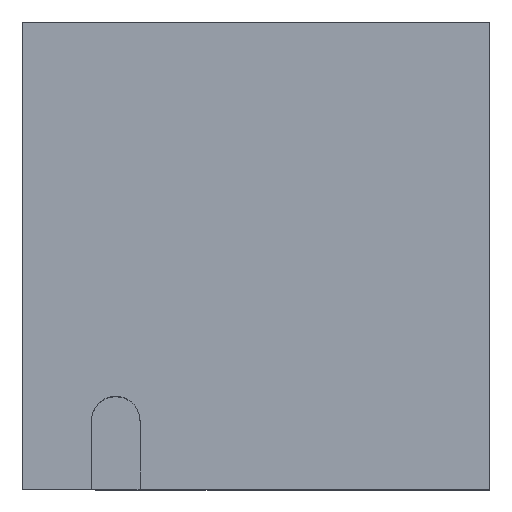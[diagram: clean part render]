
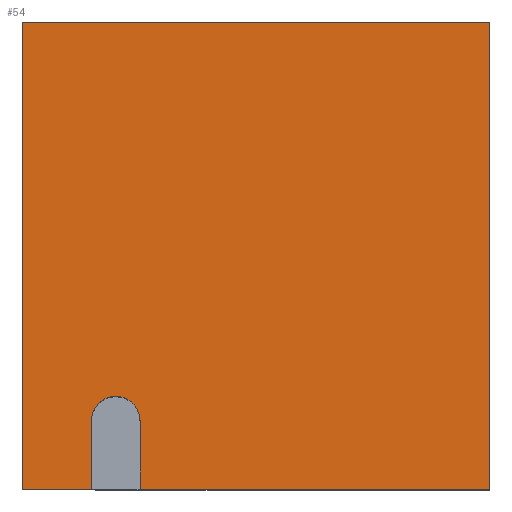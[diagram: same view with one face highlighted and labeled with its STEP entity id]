
A CAD part, top view. The second image highlights one B-rep face of the part: STEP entity #54.
In plain terms, the highlighted planar face has unit normal (0, 0, 1).
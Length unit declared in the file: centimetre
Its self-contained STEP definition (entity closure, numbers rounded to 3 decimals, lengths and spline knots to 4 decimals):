
#54 = ADVANCED_FACE ( 'NONE', ( #401 ), #1376, .T. ) ;
#157 = LINE ( 'NONE', #2772, #2812 ) ;
#159 = VERTEX_POINT ( 'NONE', #2894 ) ;
#173 = CARTESIAN_POINT ( 'NONE',  ( 251.7787, 147.0788, 1000. ) ) ;
#192 = VECTOR ( 'NONE', #1804, 100. ) ;
#323 = VERTEX_POINT ( 'NONE', #2324 ) ;
#390 = CARTESIAN_POINT ( 'NONE',  ( 147.748, 0., 1000. ) ) ;
#401 = FACE_OUTER_BOUND ( 'NONE', #746, .T. ) ;
#436 = ORIENTED_EDGE ( 'NONE', *, *, #1795, .F. ) ;
#507 = DIRECTION ( 'NONE',  ( 0., -1., 0. ) ) ;
#526 = VECTOR ( 'NONE', #507, 100. ) ;
#570 = LINE ( 'NONE', #849, #192 ) ;
#605 = CARTESIAN_POINT ( 'NONE',  ( 147.748, 0., 1000. ) ) ;
#678 = DIRECTION ( 'NONE',  ( 1., 0., 0. ) ) ;
#746 = EDGE_LOOP ( 'NONE', ( #436, #2450, #993, #1491, #1313, #2470, #2189, #855 ) ) ;
#753 = AXIS2_PLACEMENT_3D ( 'NONE', #1344, #2541, #1746 ) ;
#849 = CARTESIAN_POINT ( 'NONE',  ( 251.7787, 147.0788, 1000. ) ) ;
#855 = ORIENTED_EDGE ( 'NONE', *, *, #2538, .T. ) ;
#883 = CARTESIAN_POINT ( 'NONE',  ( 251.7787, 0., 1000. ) ) ;
#993 = ORIENTED_EDGE ( 'NONE', *, *, #1417, .F. ) ;
#1154 = DIRECTION ( 'NONE',  ( 0., 0., 1. ) ) ;
#1156 = VERTEX_POINT ( 'NONE', #3018 ) ;
#1226 = EDGE_CURVE ( 'NONE', #2190, #2458, #1995, .T. ) ;
#1278 = CARTESIAN_POINT ( 'NONE',  ( 0., 1000., 1000. ) ) ;
#1294 = LINE ( 'NONE', #1967, #1476 ) ;
#1313 = ORIENTED_EDGE ( 'NONE', *, *, #2714, .T. ) ;
#1344 = CARTESIAN_POINT ( 'NONE',  ( 0., 0., 1000. ) ) ;
#1376 = PLANE ( 'NONE',  #753 ) ;
#1383 = EDGE_CURVE ( 'NONE', #323, #2190, #2754, .T. ) ;
#1387 = VERTEX_POINT ( 'NONE', #173 ) ;
#1411 = VERTEX_POINT ( 'NONE', #605 ) ;
#1417 = EDGE_CURVE ( 'NONE', #1418, #1387, #570, .T. ) ;
#1418 = VERTEX_POINT ( 'NONE', #883 ) ;
#1476 = VECTOR ( 'NONE', #2935, 100. ) ;
#1488 = CARTESIAN_POINT ( 'NONE',  ( 0., 0., 1000. ) ) ;
#1491 = ORIENTED_EDGE ( 'NONE', *, *, #2302, .T. ) ;
#1523 = VECTOR ( 'NONE', #2037, 100. ) ;
#1697 = CIRCLE ( 'NONE', #2354, 52.0154 ) ;
#1746 = DIRECTION ( 'NONE',  ( 1., 0., 0. ) ) ;
#1795 = EDGE_CURVE ( 'NONE', #1156, #1411, #2273, .T. ) ;
#1804 = DIRECTION ( 'NONE',  ( 0., 1., 0. ) ) ;
#1872 = CARTESIAN_POINT ( 'NONE',  ( 199.7634, 147.0788, 1000. ) ) ;
#1967 = CARTESIAN_POINT ( 'NONE',  ( 0., 0., 1000. ) ) ;
#1986 = VECTOR ( 'NONE', #678, 100. ) ;
#1995 = LINE ( 'NONE', #1278, #526 ) ;
#2006 = EDGE_CURVE ( 'NONE', #1387, #1156, #1697, .T. ) ;
#2008 = VECTOR ( 'NONE', #2032, 100. ) ;
#2032 = DIRECTION ( 'NONE',  ( 0., -1., 0. ) ) ;
#2037 = DIRECTION ( 'NONE',  ( -1., 0., 0. ) ) ;
#2038 = DIRECTION ( 'NONE',  ( 0., 1., 0. ) ) ;
#2067 = CARTESIAN_POINT ( 'NONE',  ( 0., 1000., 1000. ) ) ;
#2189 = ORIENTED_EDGE ( 'NONE', *, *, #1226, .T. ) ;
#2190 = VERTEX_POINT ( 'NONE', #2391 ) ;
#2273 = LINE ( 'NONE', #390, #2008 ) ;
#2302 = EDGE_CURVE ( 'NONE', #1418, #159, #2305, .T. ) ;
#2305 = LINE ( 'NONE', #2819, #1986 ) ;
#2324 = CARTESIAN_POINT ( 'NONE',  ( 1000., 1000., 1000. ) ) ;
#2346 = DIRECTION ( 'NONE',  ( -1., 0., 0. ) ) ;
#2354 = AXIS2_PLACEMENT_3D ( 'NONE', #1872, #1154, #2346 ) ;
#2391 = CARTESIAN_POINT ( 'NONE',  ( 0., 1000., 1000. ) ) ;
#2450 = ORIENTED_EDGE ( 'NONE', *, *, #2006, .F. ) ;
#2458 = VERTEX_POINT ( 'NONE', #1488 ) ;
#2470 = ORIENTED_EDGE ( 'NONE', *, *, #1383, .T. ) ;
#2538 = EDGE_CURVE ( 'NONE', #2458, #1411, #1294, .T. ) ;
#2541 = DIRECTION ( 'NONE',  ( 0., 0., 1. ) ) ;
#2714 = EDGE_CURVE ( 'NONE', #159, #323, #157, .T. ) ;
#2754 = LINE ( 'NONE', #2067, #1523 ) ;
#2772 = CARTESIAN_POINT ( 'NONE',  ( 1000., 1000., 1000. ) ) ;
#2812 = VECTOR ( 'NONE', #2038, 100. ) ;
#2819 = CARTESIAN_POINT ( 'NONE',  ( 0., 0., 1000. ) ) ;
#2894 = CARTESIAN_POINT ( 'NONE',  ( 1000., 0., 1000. ) ) ;
#2935 = DIRECTION ( 'NONE',  ( 1., 0., 0. ) ) ;
#3018 = CARTESIAN_POINT ( 'NONE',  ( 147.748, 147.0788, 1000. ) ) ;
